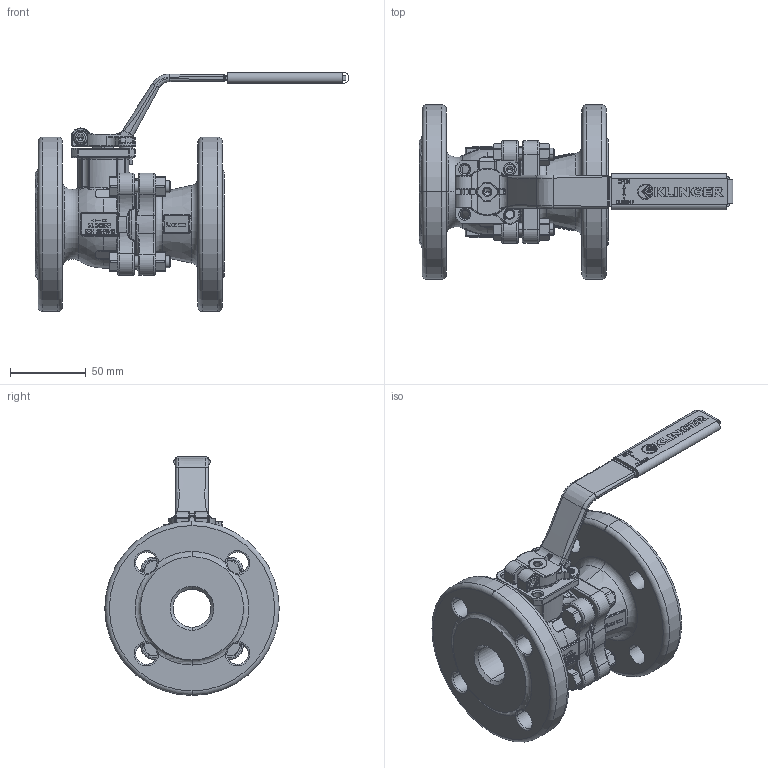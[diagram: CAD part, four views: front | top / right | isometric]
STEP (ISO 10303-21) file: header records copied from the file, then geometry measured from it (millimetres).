
FILE_DESCRIPTION((''),'2;1');
FILE_NAME('KHEFK025VFK025P040PKK','2015-08-07T',('mahrhauserh'),('RAND'),'PRO/ENGINEER BY PARAMETRIC TECHNOLOGY CORPORATION, 2013410','PRO/ENGINEER BY PARAMETRIC TECHNOLOGY CORPORATION, 2013410','');
FILE_SCHEMA(('CONFIG_CONTROL_DESIGN'));
Products named in the file (1): KHEFK025VFK025P040PKK
Bounding box: 206.95 x 115 x 157.55 mm (x, y, z)
Volume: 536823.3 mm3; surface area: 133042.8 mm2
Topology: 1 solids, 2 shells, 3097 faces, 8029 edges, 5030 vertices
Faces by surface type: plane 1735, cylinder 486, bspline 332, torus 292, cone 210, sphere 42
Entity records: 127214 total; most frequent: CARTESIAN_POINT 53185, ORIENTED_EDGE 16030, DIRECTION 14612, EDGE_CURVE 8015, VECTOR 5082, LINE 5082, VERTEX_POINT 5030, AXIS2_PLACEMENT_3D 4765
